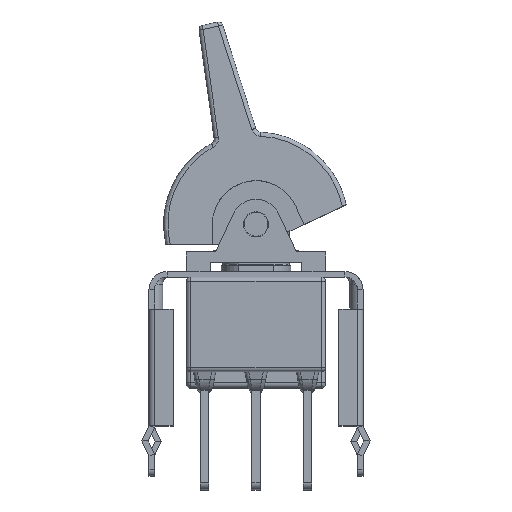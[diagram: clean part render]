
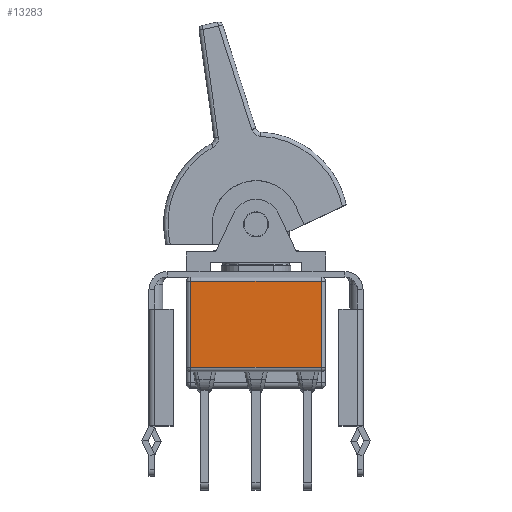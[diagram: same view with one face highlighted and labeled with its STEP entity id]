
A CAD part, top view. The second image highlights one B-rep face of the part: STEP entity #13283.
In plain terms, the highlighted planar face has unit normal (0, 0, 1).
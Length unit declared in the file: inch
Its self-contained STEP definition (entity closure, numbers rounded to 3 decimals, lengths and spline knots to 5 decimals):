
#1778=DIRECTION('',(0.,1.,0.));
#1779=VECTOR('',#1778,0.31);
#1780=CARTESIAN_POINT('',(0.235,-0.285,0.225));
#1781=LINE('',#1780,#1779);
#1791=DIRECTION('',(-1.,0.,0.));
#1792=VECTOR('',#1791,0.47);
#1793=CARTESIAN_POINT('',(0.235,-0.285,0.225));
#1794=LINE('',#1793,#1792);
#1804=DIRECTION('',(0.,-1.,0.));
#1805=VECTOR('',#1804,0.31);
#1806=CARTESIAN_POINT('',(-0.235,0.025,0.225));
#1807=LINE('',#1806,#1805);
#3078=DIRECTION('',(-1.,0.,0.));
#3079=VECTOR('',#3078,0.47);
#3080=CARTESIAN_POINT('',(0.235,0.025,0.225));
#3081=LINE('',#3080,#3079);
#8826=CARTESIAN_POINT('',(0.235,-0.285,0.225));
#8827=CARTESIAN_POINT('',(-0.235,-0.285,0.225));
#8828=VERTEX_POINT('',#8826);
#8829=VERTEX_POINT('',#8827);
#9142=CARTESIAN_POINT('',(0.235,0.025,0.225));
#9143=CARTESIAN_POINT('',(-0.235,0.025,0.225));
#9144=VERTEX_POINT('',#9142);
#9145=VERTEX_POINT('',#9143);
#13269=CARTESIAN_POINT('',(0.25,0.,0.225));
#13270=DIRECTION('',(0.,0.,1.));
#13271=DIRECTION('',(-1.,0.,0.));
#13272=AXIS2_PLACEMENT_3D('',#13269,#13270,#13271);
#13273=PLANE('',#13272);
#13275=ORIENTED_EDGE('',*,*,#13274,.F.);
#13277=ORIENTED_EDGE('',*,*,#13276,.F.);
#13278=ORIENTED_EDGE('',*,*,#13259,.F.);
#13280=ORIENTED_EDGE('',*,*,#13279,.T.);
#13281=EDGE_LOOP('',(#13275,#13277,#13278,#13280));
#13282=FACE_OUTER_BOUND('',#13281,.F.);
#13283=ADVANCED_FACE('',(#13282),#13273,.T.);
#13259=EDGE_CURVE('',#8828,#9144,#1781,.T.);
#13274=EDGE_CURVE('',#9145,#8829,#1807,.T.);
#13276=EDGE_CURVE('',#9144,#9145,#3081,.T.);
#13279=EDGE_CURVE('',#8828,#8829,#1794,.T.);
